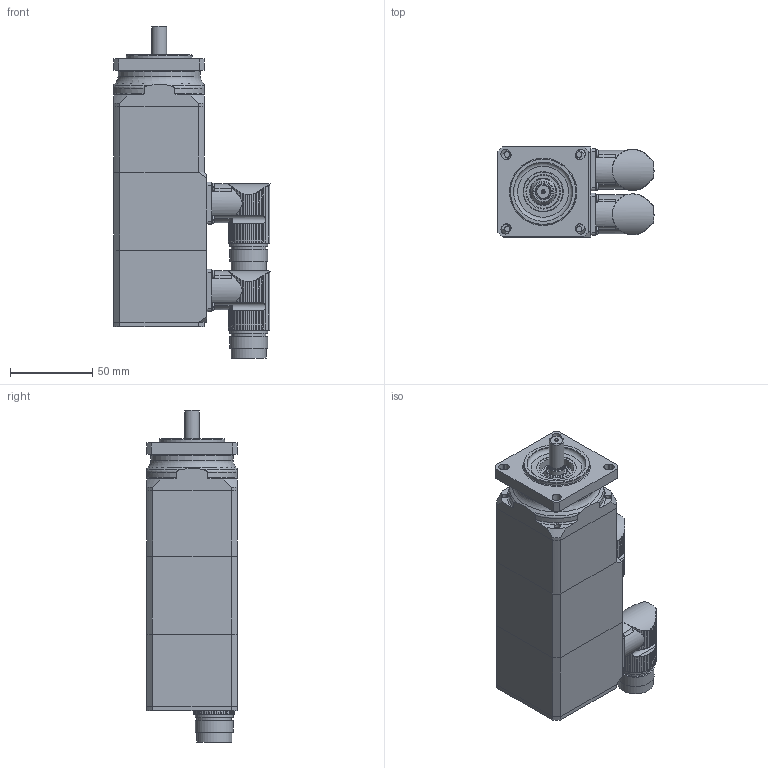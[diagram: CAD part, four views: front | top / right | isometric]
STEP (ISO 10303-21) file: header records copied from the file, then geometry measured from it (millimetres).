
FILE_DESCRIPTION(/* description */ (''),/* implementation_level */ '2;1');
FILE_NAME(/* name */ 'KSY 164 D-MD-R4',/* time_stamp */ '2006-12-08T14:36:19+01:00',/* author */ (''),/* organization */ (''),/* preprocessor_version */ 'ST-DEVELOPER v8',/* originating_system */ 'UNIGRAPHICS SOLUTIONS - UNIGRAPHICS 18.0',/* authorisation */ '');
FILE_SCHEMA (('AUTOMOTIVE_DESIGN { 1 2 10303 214 0 1 1 1 }'));
Length unit declared in the file: millimetre
Products named in the file (12): iso2009-m3x8_A; 064224_0; 064231_0; 111003_2; Rotor_SY1_0; Gehaeuse_SY1_40_0; 111001_0; iso1580-m2.5x6_A; 014257_0; 014250_0; DIN3760_org_A10x24x7_0; KSY164D-MD-R4_0
Assembly tree (21 placements, depth 2):
  KSY164D-MD-R4_0
    DIN3760_org_A10x24x7_0
    014250_0
    014257_0
    iso1580-m2.5x6_A  x8
    111001_0
    Gehaeuse_SY1_40_0
    Rotor_SY1_0
    111003_2
    064231_0
    064224_0
    iso2009-m3x8_A  x4
Bounding box: 94.99 x 55 x 202.15 mm (x, y, z)
Volume: 249102.6 mm3; surface area: 122204.8 mm2
Topology: 21 solids, 21 shells, 873 faces, 2328 edges, 1526 vertices
Faces by surface type: cylinder 499, plane 227, cone 82, torus 40, sphere 20, bspline 5
Full cylindrical faces by diameter (mm): 1 x16, 1.5 x1, 1.948 x8, 2 x4, 2.135 x8, 2.459 x15, 2.5 x8, 2.7 x8, 3 x4, 3.3 x3, 3.4 x3, 3.432 x4, 3.5 x4, 4 x1, 4.5 x5, 6 x7, 6.5 x4, 8 x4, 8.52 x1, 9 x1, 10 x2, 10.3 x1, 10.5 x1, 15 x1, 18 x4, 20 x5, 21 x3, 21.5 x2, 22 x1, 23 x5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
Entity records: 23807 total; most frequent: CARTESIAN_POINT 5847, DIRECTION 3651, ORIENTED_EDGE 3388, EDGE_CURVE 1694, AXIS2_PLACEMENT_3D 1557, VERTEX_POINT 1241, EDGE_LOOP 1123, CIRCLE 787
